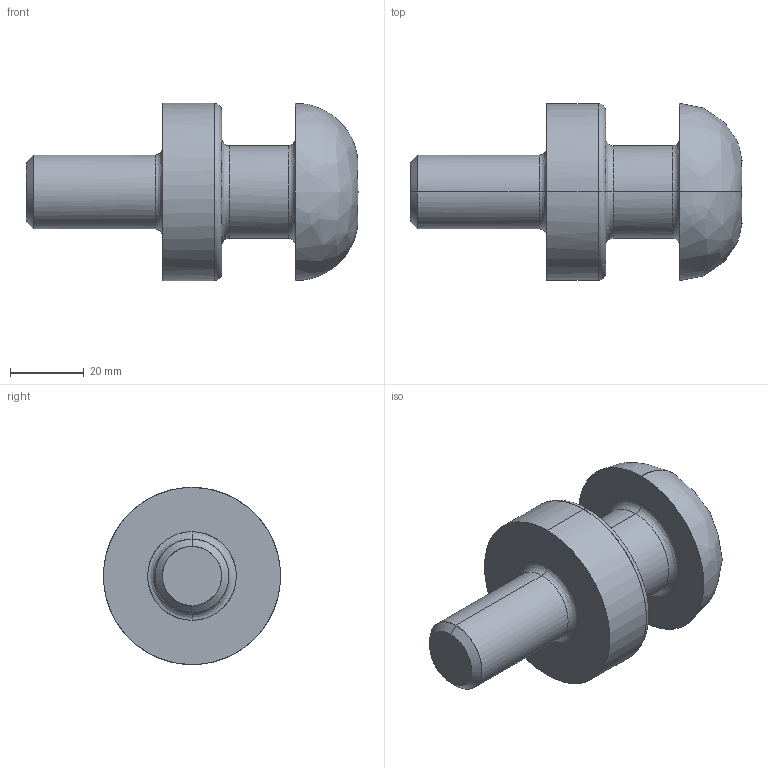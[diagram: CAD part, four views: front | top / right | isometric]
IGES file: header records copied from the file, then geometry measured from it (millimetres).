
Global section: file name: E:\UnigraphicsGraphicData\MISUMI_PRESS-PARTS\IGES\3d_chn20_03537_r00.igs; native system: NX V5.0; preprocessor: UGS NX IGES V5.0; author: MISUMI; date: 20110105.160220; units: millimetre
Bounding box: 89.93 x 48 x 48 mm (x, y, z)
Surface area: 14213 mm2 (no closed solid volume)
Topology: 0 solids, 0 shells, 29 faces, 208 edges, 208 vertices
Faces by surface type: bspline 29
